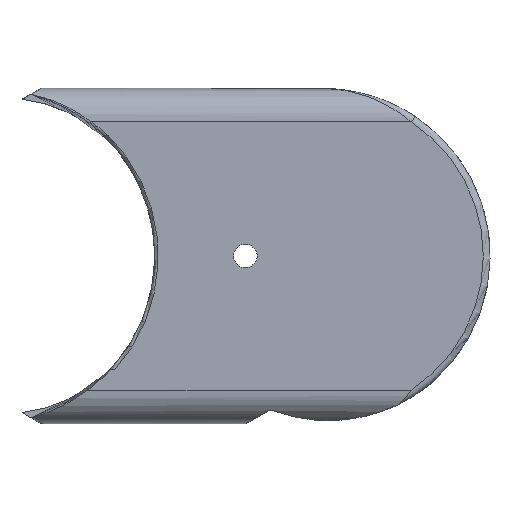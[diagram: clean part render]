
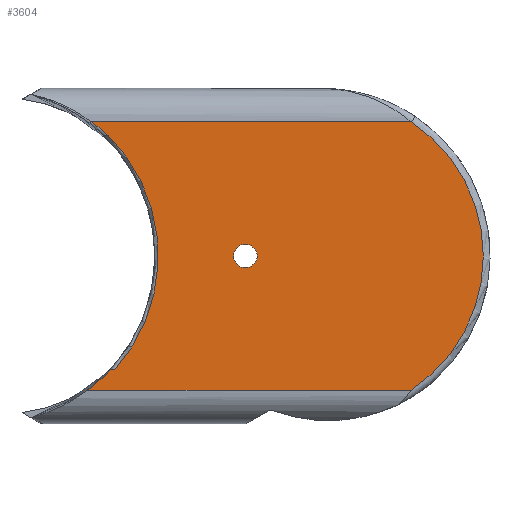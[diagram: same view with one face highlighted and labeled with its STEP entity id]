
A CAD part, left-side view. The second image highlights one B-rep face of the part: STEP entity #3604.
In plain terms, the highlighted planar face has unit normal (-1, 0, 0).
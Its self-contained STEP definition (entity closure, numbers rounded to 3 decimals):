
#237=CARTESIAN_POINT('',(0.,51.382,5.));
#238=VERTEX_POINT('',#237);
#249=CARTESIAN_POINT('',(0.,48.051,8.));
#250=VERTEX_POINT('',#249);
#251=CARTESIAN_POINT('',(0.,66.382,25.));
#252=DIRECTION('',(1.0,0.0,0.0));
#253=DIRECTION('',(0.0,0.0,1.0));
#254=AXIS2_PLACEMENT_3D('',#251,#252,#253);
#255=CIRCLE('',#254,25.);
#256=EDGE_CURVE('',#250,#238,#255,.T.);
#574=CARTESIAN_POINT('',(0.,50.875,45.));
#575=VERTEX_POINT('',#574);
#589=CARTESIAN_POINT('',(0.,3.115,45.));
#590=VERTEX_POINT('',#589);
#591=CARTESIAN_POINT('',(0.,50.875,45.));
#592=DIRECTION('',(0.0,-1.0,0.));
#593=VECTOR('',#592,47.76);
#594=LINE('',#591,#593);
#595=EDGE_CURVE('',#575,#590,#594,.T.);
#3014=CARTESIAN_POINT('',(0.,27.882,26.75));
#3015=VERTEX_POINT('',#3014);
#3016=CARTESIAN_POINT('',(0.,27.882,25.));
#3017=DIRECTION('',(1.0,0.0,0.0));
#3018=DIRECTION('',(0.0,0.0,-1.0));
#3019=AXIS2_PLACEMENT_3D('',#3016,#3017,#3018);
#3020=CIRCLE('',#3019,1.75);
#3021=EDGE_CURVE('',#3015,#3015,#3020,.T.);
#3152=CARTESIAN_POINT('',(0.,48.429,43.041));
#3153=VERTEX_POINT('',#3152);
#3170=CARTESIAN_POINT('',(0.,63.682,26.5));
#3171=DIRECTION('',(-1.0,0.,0.));
#3172=DIRECTION('',(0.,-0.603,0.798));
#3173=AXIS2_PLACEMENT_3D('',#3170,#3171,#3172);
#3174=CIRCLE('',#3173,22.5);
#3175=EDGE_CURVE('',#3153,#575,#3174,.T.);
#3187=CARTESIAN_POINT('',(0.,48.364,43.044));
#3188=VERTEX_POINT('',#3187);
#3211=CARTESIAN_POINT('',(0.,48.364,43.044));
#3212=DIRECTION('',(0.0,0.998,-0.058));
#3213=VECTOR('',#3212,0.065);
#3214=LINE('',#3211,#3213);
#3215=EDGE_CURVE('',#3188,#3153,#3214,.T.);
#3228=CARTESIAN_POINT('',(0.,47.375,8.));
#3229=VERTEX_POINT('',#3228);
#3255=CARTESIAN_POINT('',(0.,66.382,25.));
#3256=DIRECTION('',(-1.,0.,0.));
#3257=DIRECTION('',(0.,-1.,0.028));
#3258=AXIS2_PLACEMENT_3D('',#3255,#3256,#3257);
#3259=CIRCLE('',#3258,25.5);
#3260=EDGE_CURVE('',#3229,#3188,#3259,.T.);
#3499=CARTESIAN_POINT('',(0.,3.115,5.0));
#3500=VERTEX_POINT('',#3499);
#3501=CARTESIAN_POINT('',(0.,16.382,25.));
#3502=DIRECTION('',(1.,0.,0.));
#3503=DIRECTION('',(0.,-0.999,0.039));
#3504=AXIS2_PLACEMENT_3D('',#3501,#3502,#3503);
#3505=CIRCLE('',#3504,24.);
#3506=EDGE_CURVE('',#590,#3500,#3505,.T.);
#3539=CARTESIAN_POINT('',(0.,3.115,5.0));
#3540=DIRECTION('',(0.0,1.0,0.0));
#3541=VECTOR('',#3540,48.266);
#3542=LINE('',#3539,#3541);
#3543=EDGE_CURVE('',#3500,#238,#3542,.T.);
#3581=CARTESIAN_POINT('',(0.,-8.618,50.));
#3582=DIRECTION('',(-1.0,0.0,0.0));
#3583=DIRECTION('',(0.0,-1.0,0.0));
#3584=AXIS2_PLACEMENT_3D('',#3581,#3582,#3583);
#3585=PLANE('',#3584);
#3586=ORIENTED_EDGE('',*,*,#256,.T.);
#3587=ORIENTED_EDGE('',*,*,#3543,.F.);
#3588=ORIENTED_EDGE('',*,*,#3506,.F.);
#3589=ORIENTED_EDGE('',*,*,#595,.F.);
#3590=ORIENTED_EDGE('',*,*,#3175,.F.);
#3591=ORIENTED_EDGE('',*,*,#3215,.F.);
#3592=ORIENTED_EDGE('',*,*,#3260,.F.);
#3593=CARTESIAN_POINT('',(0.,47.375,8.));
#3594=DIRECTION('',(0.0,1.0,0.0));
#3595=VECTOR('',#3594,0.676);
#3596=LINE('',#3593,#3595);
#3597=EDGE_CURVE('',#3229,#250,#3596,.T.);
#3598=ORIENTED_EDGE('',*,*,#3597,.T.);
#3599=EDGE_LOOP('',(#3586,#3587,#3588,#3589,#3590,#3591,#3592,#3598));
#3600=FACE_OUTER_BOUND('',#3599,.T.);
#3601=ORIENTED_EDGE('',*,*,#3021,.T.);
#3602=EDGE_LOOP('',(#3601));
#3603=FACE_BOUND('',#3602,.T.);
#3604=ADVANCED_FACE('',(#3600,#3603),#3585,.T.);
